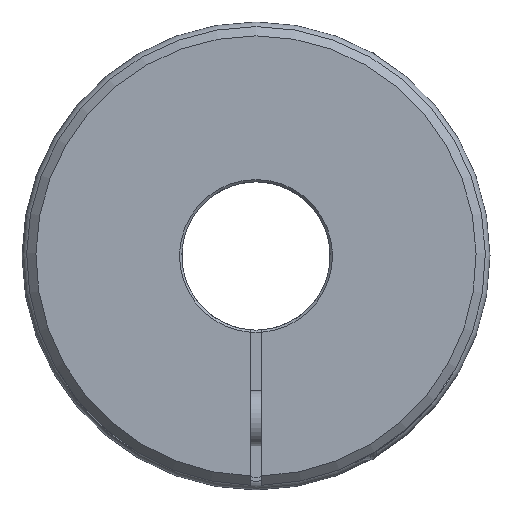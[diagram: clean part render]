
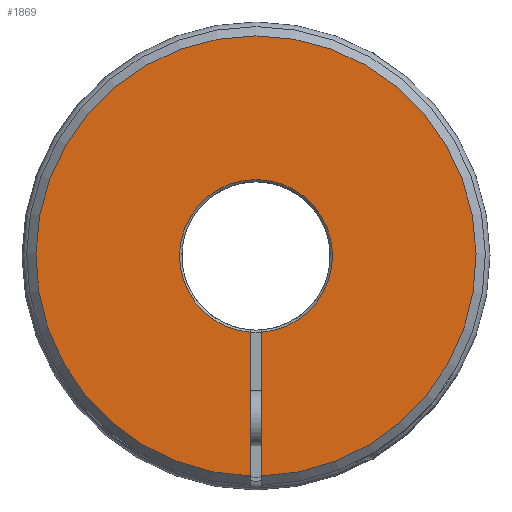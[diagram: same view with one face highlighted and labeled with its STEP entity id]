
A CAD part, left-side view. The second image highlights one B-rep face of the part: STEP entity #1869.
In plain terms, the highlighted planar face has unit normal (-1, 0, 0).
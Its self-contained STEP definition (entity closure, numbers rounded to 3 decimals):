
#102=LINE('',#3371,#200);
#103=LINE('',#3372,#201);
#200=VECTOR('',#2583,1000.);
#201=VECTOR('',#2584,1000.);
#526=ORIENTED_EDGE('',*,*,#865,.F.);
#527=ORIENTED_EDGE('',*,*,#863,.F.);
#528=ORIENTED_EDGE('',*,*,#866,.F.);
#529=ORIENTED_EDGE('',*,*,#849,.T.);
#849=EDGE_CURVE('',#1055,#1057,#1214,.T.);
#863=EDGE_CURVE('',#1069,#1070,#1220,.T.);
#865=EDGE_CURVE('',#1070,#1057,#102,.T.);
#866=EDGE_CURVE('',#1055,#1069,#103,.T.);
#1055=VERTEX_POINT('',#3214);
#1057=VERTEX_POINT('',#3218);
#1069=VERTEX_POINT('',#3366);
#1070=VERTEX_POINT('',#3368);
#1214=CIRCLE('',#2099,47.5);
#1220=CIRCLE('',#2110,16.5);
#1409=EDGE_LOOP('',(#526,#527,#528,#529));
#1637=FACE_BOUND('',#1409,.T.);
#1745=PLANE('',#2111);
#1869=ADVANCED_FACE('',(#1637),#1745,.T.);
#2099=AXIS2_PLACEMENT_3D('',#3219,#2551,#2552);
#2110=AXIS2_PLACEMENT_3D('',#3367,#2578,#2579);
#2111=AXIS2_PLACEMENT_3D('',#3370,#2581,#2582);
#2551=DIRECTION('',(-1.,0.,0.));
#2552=DIRECTION('',(0.,0.,1.));
#2578=DIRECTION('',(-1.,0.,0.));
#2579=DIRECTION('',(0.,0.,1.));
#2581=DIRECTION('',(-1.,0.,0.));
#2582=DIRECTION('',(0.,0.,1.));
#2583=DIRECTION('',(0.,0.,-1.));
#2584=DIRECTION('',(0.,0.,1.));
#3214=CARTESIAN_POINT('',(-55.137,-1.2,-47.485));
#3218=CARTESIAN_POINT('',(-55.137,1.2,-47.485));
#3219=CARTESIAN_POINT('',(-55.137,0.,0.));
#3366=CARTESIAN_POINT('',(-55.137,-1.2,-16.456));
#3367=CARTESIAN_POINT('',(-55.137,0.,0.));
#3368=CARTESIAN_POINT('',(-55.137,1.2,-16.456));
#3370=CARTESIAN_POINT('',(-55.137,0.,16.));
#3371=CARTESIAN_POINT('',(-55.137,1.2,-15.955));
#3372=CARTESIAN_POINT('',(-55.137,-1.2,-15.955));
